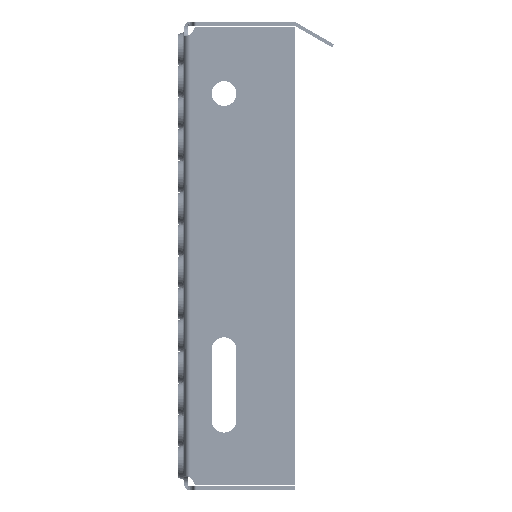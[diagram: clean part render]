
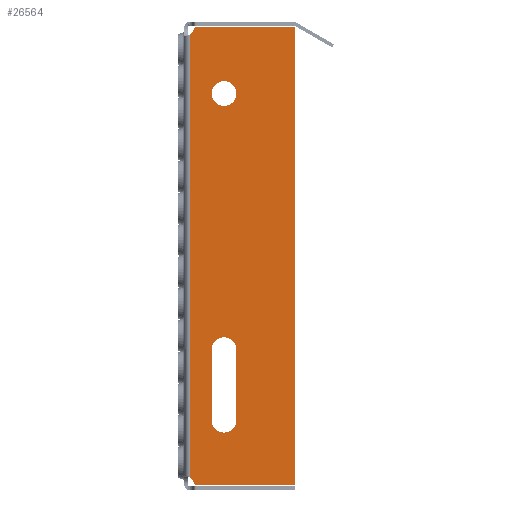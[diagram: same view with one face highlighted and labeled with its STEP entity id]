
A CAD part, left-side view. The second image highlights one B-rep face of the part: STEP entity #26564.
In plain terms, the highlighted planar face has unit normal (-1, 0, 0).
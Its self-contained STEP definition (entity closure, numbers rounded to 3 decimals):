
#721 = CIRCLE ( 'NONE', #39342, 1. ) ;
#2469 = VECTOR ( 'NONE', #103350, 1000. ) ;
#3159 = ORIENTED_EDGE ( 'NONE', *, *, #55787, .T. ) ;
#4961 = CARTESIAN_POINT ( 'NONE',  ( -697.5, -22.5, 96. ) ) ;
#5183 = EDGE_CURVE ( 'NONE', #18911, #41217, #99794, .T. ) ;
#5505 = DIRECTION ( 'NONE',  ( -1., 0., 0. ) ) ;
#5653 = VERTEX_POINT ( 'NONE', #24321 ) ;
#8044 = EDGE_CURVE ( 'NONE', #79194, #5653, #58452, .T. ) ;
#8046 = VECTOR ( 'NONE', #101196, 1000. ) ;
#11706 = CARTESIAN_POINT ( 'NONE',  ( -697.5, -0.5, 133.5 ) ) ;
#12165 = CARTESIAN_POINT ( 'NONE',  ( -697.5, 0.5, -131.416 ) ) ;
#13098 = DIRECTION ( 'NONE',  ( 0., 0., -1. ) ) ;
#14466 = CARTESIAN_POINT ( 'NONE',  ( -697.5, -62.5, -125.5 ) ) ;
#17043 = VERTEX_POINT ( 'NONE', #60670 ) ;
#17638 = DIRECTION ( 'NONE',  ( -1., 0., 0. ) ) ;
#17901 = CARTESIAN_POINT ( 'NONE',  ( -697.5, -6.416, -125.5 ) ) ;
#17940 = VERTEX_POINT ( 'NONE', #98366 ) ;
#17967 = ORIENTED_EDGE ( 'NONE', *, *, #8044, .F. ) ;
#18911 = VERTEX_POINT ( 'NONE', #20654 ) ;
#19863 = DIRECTION ( 'NONE',  ( 0., 0., -1. ) ) ;
#20654 = CARTESIAN_POINT ( 'NONE',  ( -697.5, -6.416, 133.5 ) ) ;
#22588 = ORIENTED_EDGE ( 'NONE', *, *, #45571, .F. ) ;
#23213 = CARTESIAN_POINT ( 'NONE',  ( -697.5, -15.5, -49. ) ) ;
#24124 = LINE ( 'NONE', #69170, #85856 ) ;
#24321 = CARTESIAN_POINT ( 'NONE',  ( -697.5, -29.5, -89. ) ) ;
#26564 = ADVANCED_FACE ( 'NONE', ( #50919, #45872, #27006 ), #76682, .F. ) ;
#26632 = DIRECTION ( 'NONE',  ( -1., 0., 0. ) ) ;
#26717 = DIRECTION ( 'NONE',  ( 1., 0., 0. ) ) ;
#27006 = FACE_BOUND ( 'NONE', #96747, .T. ) ;
#27400 = ORIENTED_EDGE ( 'NONE', *, *, #79885, .T. ) ;
#28443 = DIRECTION ( 'NONE',  ( 0., 0., -1. ) ) ;
#28799 = ORIENTED_EDGE ( 'NONE', *, *, #84703, .F. ) ;
#30732 = DIRECTION ( 'NONE',  ( 0., 0., 1. ) ) ;
#30823 = ORIENTED_EDGE ( 'NONE', *, *, #95541, .F. ) ;
#30992 = EDGE_CURVE ( 'NONE', #100031, #49168, #721, .T. ) ;
#31128 = CARTESIAN_POINT ( 'NONE',  ( -697.5, -29.5, -49. ) ) ;
#31769 = CARTESIAN_POINT ( 'NONE',  ( -697.5, -5.43, -124.667 ) ) ;
#33828 = CARTESIAN_POINT ( 'NONE',  ( -697.5, -22.5, -89. ) ) ;
#34504 = ORIENTED_EDGE ( 'NONE', *, *, #68222, .T. ) ;
#34577 = VECTOR ( 'NONE', #30732, 1000. ) ;
#35177 = CARTESIAN_POINT ( 'NONE',  ( -697.5, -3., 129.17 ) ) ;
#38155 = VECTOR ( 'NONE', #44302, 1000. ) ;
#39342 = AXIS2_PLACEMENT_3D ( 'NONE', #74868, #26632, #82980 ) ;
#40373 = ORIENTED_EDGE ( 'NONE', *, *, #30992, .T. ) ;
#41013 = DIRECTION ( 'NONE',  ( 0., 0., 1. ) ) ;
#41217 = VERTEX_POINT ( 'NONE', #77082 ) ;
#41900 = DIRECTION ( 'NONE',  ( 0., 0., -1. ) ) ;
#42421 = EDGE_LOOP ( 'NONE', ( #30823 ) ) ;
#42705 = AXIS2_PLACEMENT_3D ( 'NONE', #4961, #61377, #13098 ) ;
#44283 = DIRECTION ( 'NONE',  ( 1., 0., 0. ) ) ;
#44302 = DIRECTION ( 'NONE',  ( 0., 0., -1. ) ) ;
#44444 = CARTESIAN_POINT ( 'NONE',  ( -697.5, -6.416, -125.5 ) ) ;
#44814 = VERTEX_POINT ( 'NONE', #23213 ) ;
#45571 = EDGE_CURVE ( 'NONE', #5653, #76329, #57268, .T. ) ;
#45872 = FACE_BOUND ( 'NONE', #42421, .T. ) ;
#47354 = CIRCLE ( 'NONE', #97932, 5. ) ;
#48462 = LINE ( 'NONE', #44444, #8046 ) ;
#49168 = VERTEX_POINT ( 'NONE', #17901 ) ;
#50919 = FACE_OUTER_BOUND ( 'NONE', #75116, .T. ) ;
#52029 = CARTESIAN_POINT ( 'NONE',  ( -697.5, -15.5, -49. ) ) ;
#52759 = ORIENTED_EDGE ( 'NONE', *, *, #5183, .T. ) ;
#53827 = CARTESIAN_POINT ( 'NONE',  ( -697.5, -22.5, -49. ) ) ;
#55097 = EDGE_CURVE ( 'NONE', #41217, #98846, #47354, .T. ) ;
#55787 = EDGE_CURVE ( 'NONE', #49168, #17940, #48462, .T. ) ;
#56161 = AXIS2_PLACEMENT_3D ( 'NONE', #65903, #17638, #74039 ) ;
#57268 = LINE ( 'NONE', #89289, #97665 ) ;
#58452 = CIRCLE ( 'NONE', #82100, 7. ) ;
#59238 = LINE ( 'NONE', #14466, #2469 ) ;
#60670 = CARTESIAN_POINT ( 'NONE',  ( -697.5, -22.5, 89. ) ) ;
#60769 = CARTESIAN_POINT ( 'NONE',  ( -697.5, -3., -121.17 ) ) ;
#61377 = DIRECTION ( 'NONE',  ( -1., 0., 0. ) ) ;
#61908 = DIRECTION ( 'NONE',  ( 0., 0., -1. ) ) ;
#62173 = AXIS2_PLACEMENT_3D ( 'NONE', #53827, #5505, #61908 ) ;
#63616 = ORIENTED_EDGE ( 'NONE', *, *, #71854, .F. ) ;
#64419 = CIRCLE ( 'NONE', #62173, 7. ) ;
#64569 = EDGE_CURVE ( 'NONE', #76329, #44814, #64419, .T. ) ;
#65903 = CARTESIAN_POINT ( 'NONE',  ( -697.5, -6.416, 132.5 ) ) ;
#66599 = VERTEX_POINT ( 'NONE', #60769 ) ;
#68083 = CIRCLE ( 'NONE', #74719, 5. ) ;
#68125 = DIRECTION ( 'NONE',  ( 1., 0., 0. ) ) ;
#68222 = EDGE_CURVE ( 'NONE', #66599, #100031, #68083, .T. ) ;
#69170 = CARTESIAN_POINT ( 'NONE',  ( -697.5, -62.5, 133.5 ) ) ;
#70178 = CARTESIAN_POINT ( 'NONE',  ( -697.5, -3., -131.416 ) ) ;
#71854 = EDGE_CURVE ( 'NONE', #66599, #98846, #74894, .T. ) ;
#74039 = DIRECTION ( 'NONE',  ( 0., 0., 1. ) ) ;
#74493 = CARTESIAN_POINT ( 'NONE',  ( -697.5, -62.5, 133.5 ) ) ;
#74719 = AXIS2_PLACEMENT_3D ( 'NONE', #74959, #26717, #83067 ) ;
#74868 = CARTESIAN_POINT ( 'NONE',  ( -697.5, -6.416, -124.5 ) ) ;
#74894 = LINE ( 'NONE', #70178, #34577 ) ;
#74930 = CARTESIAN_POINT ( 'NONE',  ( -697.5, -15.5, -89. ) ) ;
#74959 = CARTESIAN_POINT ( 'NONE',  ( -697.5, -0.5, -125.5 ) ) ;
#75116 = EDGE_LOOP ( 'NONE', ( #63616, #34504, #40373, #3159, #76005, #27400, #52759, #101641 ) ) ;
#76005 = ORIENTED_EDGE ( 'NONE', *, *, #104055, .T. ) ;
#76329 = VERTEX_POINT ( 'NONE', #31128 ) ;
#76682 = PLANE ( 'NONE',  #78063 ) ;
#77082 = CARTESIAN_POINT ( 'NONE',  ( -697.5, -5.43, 132.667 ) ) ;
#78063 = AXIS2_PLACEMENT_3D ( 'NONE', #12165, #44283, #28443 ) ;
#79194 = VERTEX_POINT ( 'NONE', #74930 ) ;
#79885 = EDGE_CURVE ( 'NONE', #83680, #18911, #24124, .T. ) ;
#82100 = AXIS2_PLACEMENT_3D ( 'NONE', #33828, #90162, #41900 ) ;
#82980 = DIRECTION ( 'NONE',  ( 0., 0., -1. ) ) ;
#83067 = DIRECTION ( 'NONE',  ( 0., 0., -1. ) ) ;
#83680 = VERTEX_POINT ( 'NONE', #74493 ) ;
#84703 = EDGE_CURVE ( 'NONE', #44814, #79194, #97411, .T. ) ;
#84918 = ORIENTED_EDGE ( 'NONE', *, *, #64569, .F. ) ;
#85856 = VECTOR ( 'NONE', #101627, 1000. ) ;
#89289 = CARTESIAN_POINT ( 'NONE',  ( -697.5, -29.5, -49. ) ) ;
#90162 = DIRECTION ( 'NONE',  ( -1., 0., 0. ) ) ;
#95541 = EDGE_CURVE ( 'NONE', #17043, #17043, #95859, .T. ) ;
#95859 = CIRCLE ( 'NONE', #42705, 7. ) ;
#96747 = EDGE_LOOP ( 'NONE', ( #28799, #84918, #22588, #17967 ) ) ;
#97411 = LINE ( 'NONE', #52029, #38155 ) ;
#97665 = VECTOR ( 'NONE', #41013, 1000. ) ;
#97932 = AXIS2_PLACEMENT_3D ( 'NONE', #11706, #68125, #19863 ) ;
#98366 = CARTESIAN_POINT ( 'NONE',  ( -697.5, -62.5, -125.5 ) ) ;
#98846 = VERTEX_POINT ( 'NONE', #35177 ) ;
#99794 = CIRCLE ( 'NONE', #56161, 1. ) ;
#100031 = VERTEX_POINT ( 'NONE', #31769 ) ;
#101196 = DIRECTION ( 'NONE',  ( 0., -1., 0. ) ) ;
#101627 = DIRECTION ( 'NONE',  ( 0., 1., 0. ) ) ;
#101641 = ORIENTED_EDGE ( 'NONE', *, *, #55097, .T. ) ;
#103350 = DIRECTION ( 'NONE',  ( 0., 0., 1. ) ) ;
#104055 = EDGE_CURVE ( 'NONE', #17940, #83680, #59238, .T. ) ;
